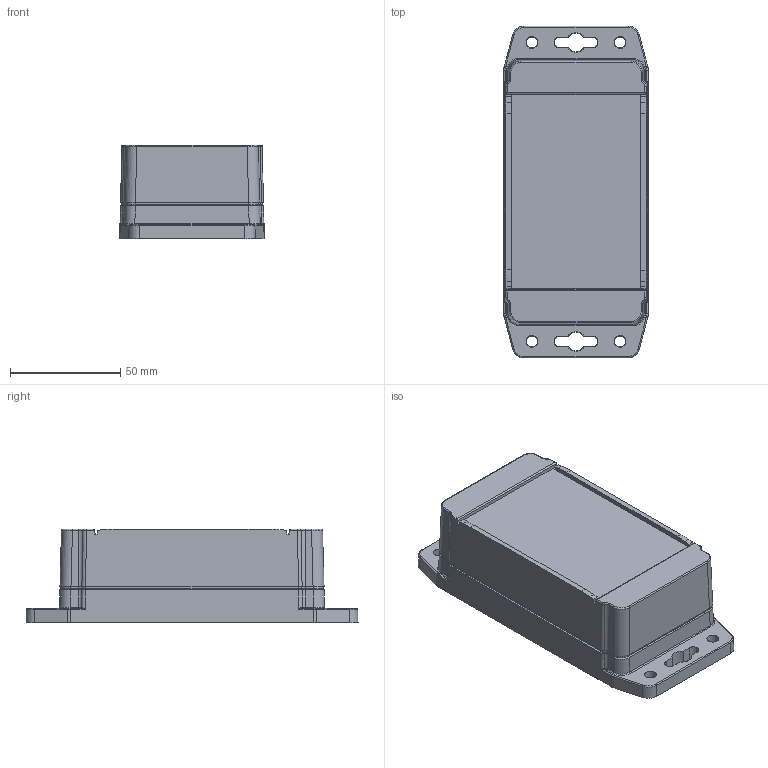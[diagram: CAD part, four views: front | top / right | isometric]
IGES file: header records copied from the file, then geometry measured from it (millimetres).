
Global section: file name: 1555CF22.iam; native system: Autodesk Inventor 2016; preprocessor: unknown; author: fwarzocha; date: 20160106.073851; units: millimetre
Bounding box: 65.79 x 150.79 x 42.5 mm (x, y, z)
Volume: 118325.9 mm3; surface area: 86070 mm2
Topology: 11 solids, 11 shells, 1140 faces, 2921 edges, 1888 vertices
Faces by surface type: plane 549, revolution 234, bspline 189, cylinder 76, cone 76, sphere 16
Full cylindrical faces by diameter (mm): 3.43 x4, 3.88 x4, 5.334 x4, 5.537 x8, 6.35 x8
